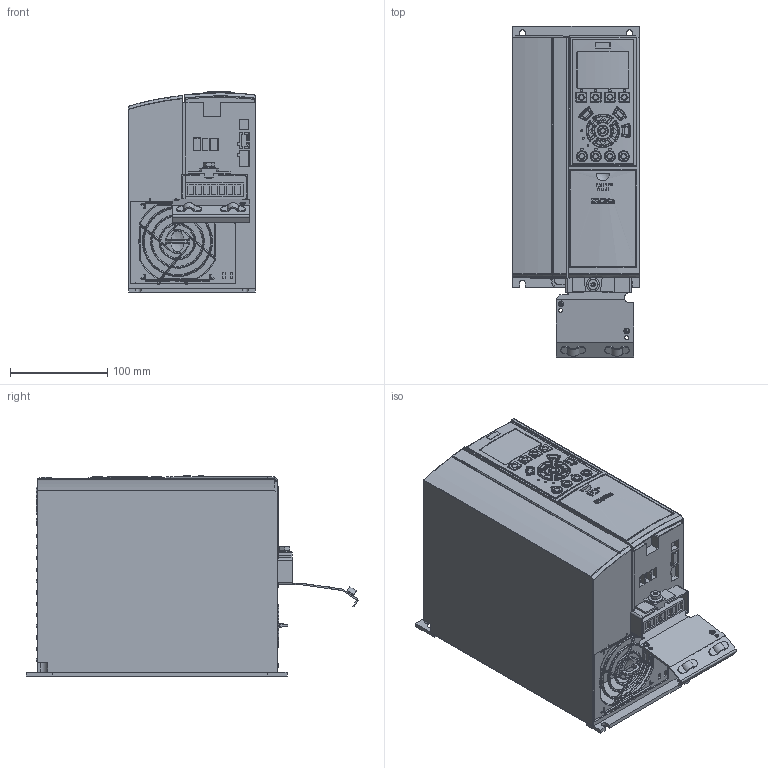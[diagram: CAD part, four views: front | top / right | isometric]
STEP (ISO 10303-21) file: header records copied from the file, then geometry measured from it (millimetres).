
FILE_DESCRIPTION((''),'2;1');
FILE_NAME('DANFOSS-FC100-A3-IP20-006','2007-02-06T',('vijayanandg'),('Danfoss Drives A/S'),'PRO/ENGINEER BY PARAMETRIC TECHNOLOGY CORPORATION, 2006200','PRO/ENGINEER BY PARAMETRIC TECHNOLOGY CORPORATION, 2006200','');
FILE_SCHEMA(('CONFIG_CONTROL_DESIGN', 'GEOMETRIC_VALIDATION_PROPERTIES_MIM'));
Products named in the file (1): DANFOSS-FC100-A3-IP20-006
Bounding box: 131.03 x 340.73 x 205.5 mm (x, y, z)
Volume: 6178830.7 mm3; surface area: 295668.4 mm2
Topology: 16 solids, 32 shells, 3075 faces, 7544 edges, 4528 vertices
Faces by surface type: cylinder 1027, plane 838, bspline 730, torus 280, sphere 87, extrusion 85, cone 28
Entity records: 169687 total; most frequent: CARTESIAN_POINT 60466, ORIENTED_EDGE 14972, DIRECTION 11473, PRESENTATION_STYLE_ASSIGNMENT 10198, STYLED_ITEM 8053, CURVE_STYLE 7491, EDGE_CURVE 7486, VERTEX_POINT 4528
